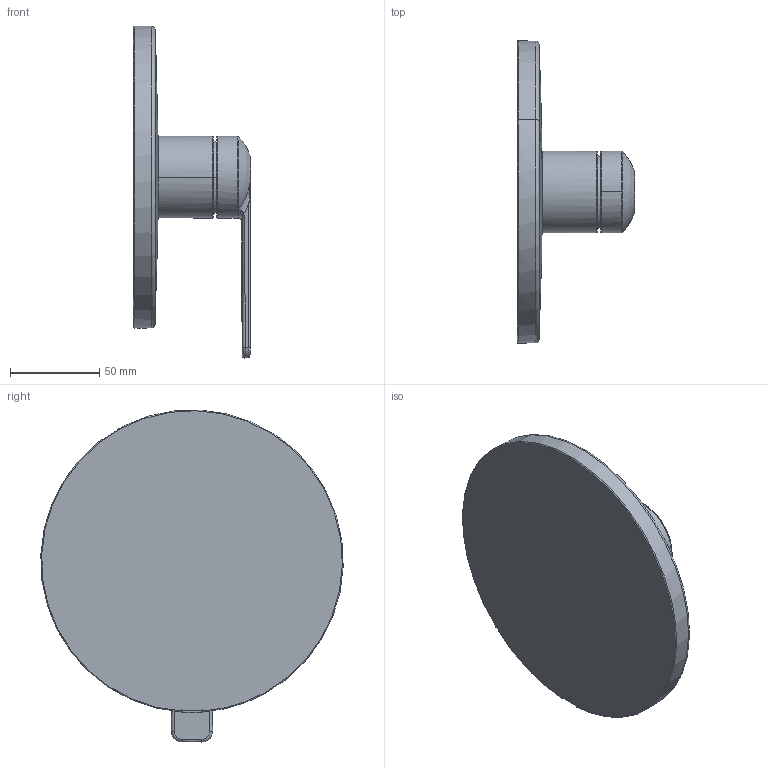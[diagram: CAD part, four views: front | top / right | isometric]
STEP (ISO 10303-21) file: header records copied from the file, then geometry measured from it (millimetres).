
FILE_DESCRIPTION((''),'2;1');
FILE_NAME('21664500','2019-03-05T',('TS966'),(''),'CREO PARAMETRIC BY PTC INC, 2016260','CREO PARAMETRIC BY PTC INC, 2016260','');
FILE_SCHEMA(('CONFIG_CONTROL_DESIGN'));
Length unit declared in the file: millimetre
Products named in the file (1): 21664500
Bounding box: 65.9 x 169.87 x 186.51 mm (x, y, z)
Volume: 385029 mm3; surface area: 62985.9 mm2
Topology: 1 solids, 1 shells, 82 faces, 198 edges, 116 vertices
Faces by surface type: bspline 46, plane 10, torus 10, cylinder 7, sphere 5, cone 4
Entity records: 4813 total; most frequent: CARTESIAN_POINT 3189, ORIENTED_EDGE 386, DIRECTION 259, EDGE_CURVE 193, AXIS2_PLACEMENT_3D 121, VERTEX_POINT 116, B_SPLINE_CURVE_WITH_KNOTS 91, EDGE_LOOP 85
